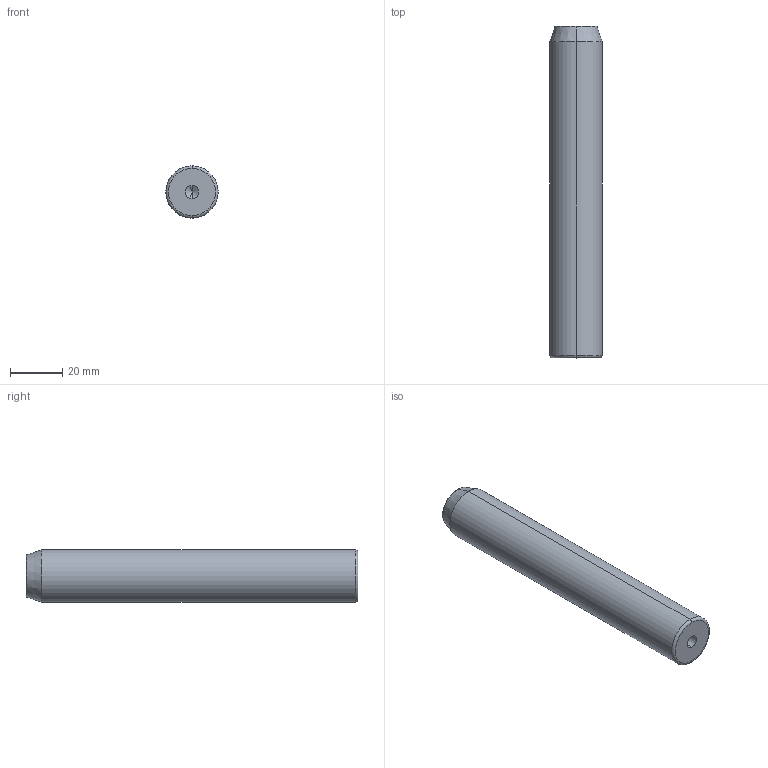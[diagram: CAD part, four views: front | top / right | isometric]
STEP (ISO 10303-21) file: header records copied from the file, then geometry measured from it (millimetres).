
FILE_DESCRIPTION (( 'STEP AP203' ), '1' );
FILE_NAME ('(STEP)M-PXD-5.STEP', '2020-04-06T02:47:39', ( '' ), ( '' ), 'SwSTEP 2.0', 'SolidWorks 2019', '' );
FILE_SCHEMA (( 'CONFIG_CONTROL_DESIGN' ));
Length unit declared in the file: millimetre
Products named in the file (1): (STEP)M-PXD-5
Bounding box: 20 x 127 x 20 mm (x, y, z)
Volume: 39217 mm3; surface area: 8725.4 mm2
Topology: 1 solids, 1 shells, 18 faces, 38 edges, 20 vertices
Faces by surface type: cone 6, cylinder 6, torus 4, plane 2
Entity records: 533 total; most frequent: DIRECTION 94, CARTESIAN_POINT 73, ORIENTED_EDGE 68, AXIS2_PLACEMENT_3D 41, EDGE_CURVE 34, CIRCLE 22, VERTEX_POINT 20, EDGE_LOOP 20
